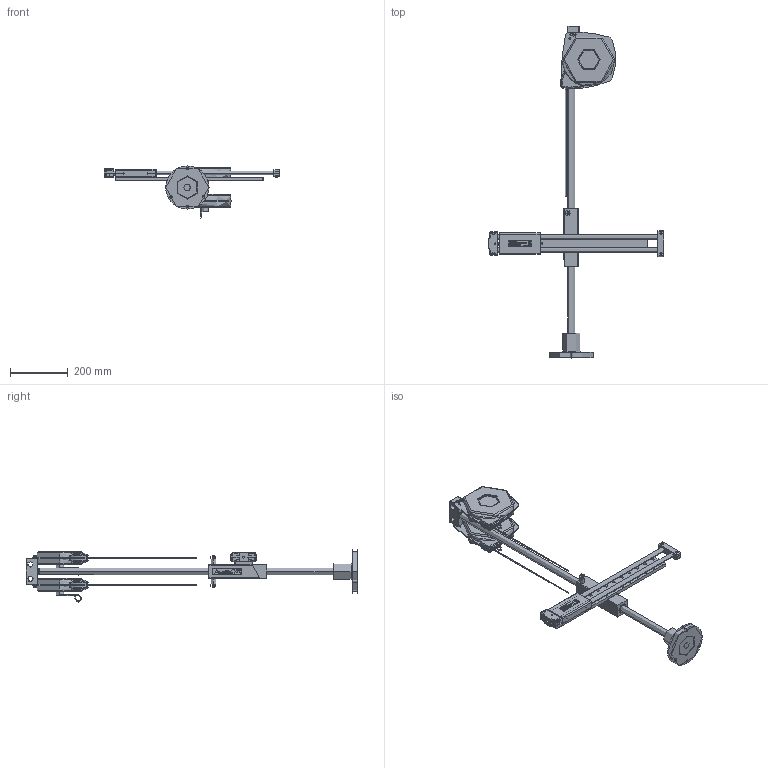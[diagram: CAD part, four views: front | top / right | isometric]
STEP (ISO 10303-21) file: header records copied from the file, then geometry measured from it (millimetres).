
FILE_DESCRIPTION((''),'2;1');
FILE_NAME('6158107050_ASM','2015-04-27T',('Greextfpav'),(''),'PRO/ENGINEER BY PARAMETRIC TECHNOLOGY CORPORATION, 2014200','PRO/ENGINEER BY PARAMETRIC TECHNOLOGY CORPORATION, 2014200','');
FILE_SCHEMA(('AUTOMOTIVE_DESIGN { 1 0 10303 214 1 1 1 1 }'));
Products named in the file (33): 6158107190; 6158107230; 2050384473; 2050384463; 2050384483; 6158107250; 6158107270; 2050384513; 6158107150_ASM; 6158107400; 2050384563; 6158107520; 6158107530; 6156160150; 6158714270; 6158107310_ASM; 6158107780; 6158107670; 6157851120; 6158107720; 6158108420; 6158107630_ASM; 6156180370; 6158714120; 6158107590_ASM; 6158107910; 6158108000; 6158108040; 6156160330; 6156190460; 6158107850_ASM; BALANCER_D; 6158107050_ASM
Assembly tree (50 placements, depth 4):
  6158107050_ASM
    6158107150_ASM
      6158107190
      6158107230
      2050384473
      2050384463  x2
      2050384483
      6158107250
      6158107270
      2050384513
    6158107310_ASM
      6158107400
      2050384563  x2
      6158107520  x2
      6158107530  x2
      6156160150  x2
      6158714270
    6158107590_ASM
      6158107780
      6158107630_ASM
        6158107670
        6157851120  x4
        6158107720
        6158108420
      6156180370  x2
      6158714120
    6158107850_ASM
      6158107910  x2
      6158108000
      6156160150  x2
      6158108040
      6156160330  x2
      6156190460
    BALANCER_D  x2
    6156160150  x4
Bounding box: 606.5 x 1147 x 180 mm (x, y, z)
Topology: 625 solids, 662 shells, 5144 faces, 13978 edges, 8054 vertices
Faces by surface type: extrusion 1595, plane 1462, sphere 1156, cylinder 605, cone 184, torus 134, bspline 8
Entity records: 171802 total; most frequent: CARTESIAN_POINT 39450, ORIENTED_EDGE 19712, DIRECTION 14899, EDGE_CURVE 9924, PRESENTATION_STYLE_ASSIGNMENT 9519, STYLED_ITEM 9441, CURVE_STYLE 9149, VERTEX_POINT 6686
